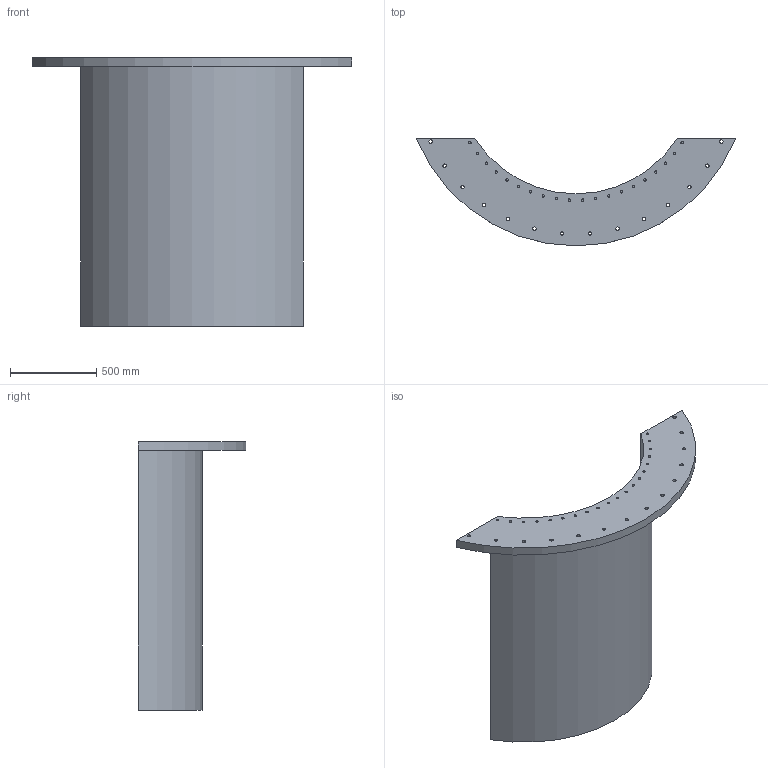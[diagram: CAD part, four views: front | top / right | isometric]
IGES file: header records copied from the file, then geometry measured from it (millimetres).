
Start section:  PTC IGES file: 04.igs
Global section: file name: 04.igs; native system: Pro/ENGINEER by Parametric Technology Corporation; preprocessor: 1999260; author: oshatz; organization: Unknown; date: 000922.101857; units: millimetre
Bounding box: 1852.7 x 625 x 1558 mm (x, y, z)
Surface area: 6069841.3 mm2 (no closed solid volume)
Topology: 0 solids, 0 shells, 96 faces, 444 edges, 444 vertices
Faces by surface type: revolution 71, bspline 25
